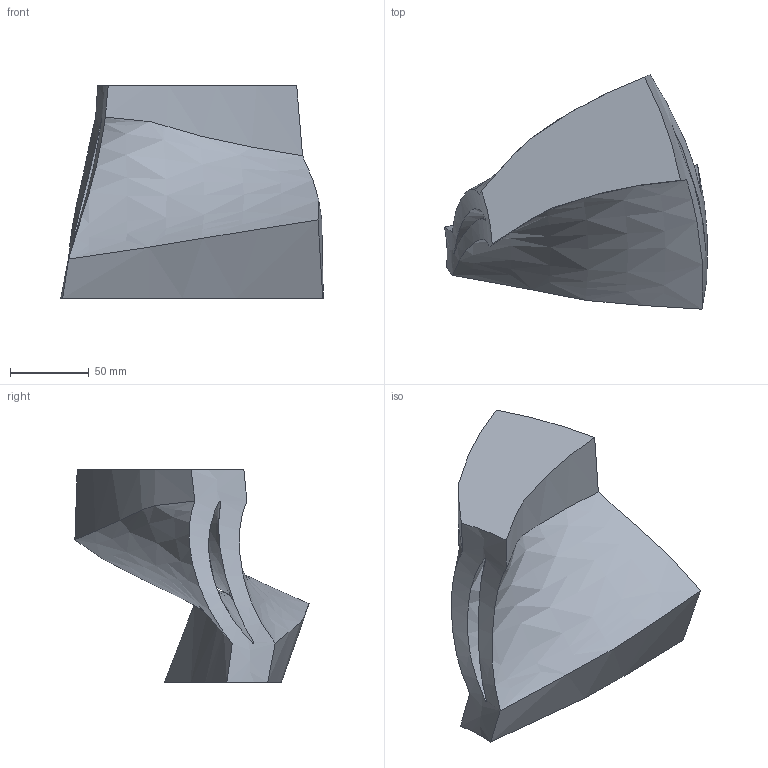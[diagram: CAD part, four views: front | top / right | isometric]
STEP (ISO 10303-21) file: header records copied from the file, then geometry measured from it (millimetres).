
FILE_DESCRIPTION (( 'STEP AP203' ), '1' );
FILE_NAME ('rotor67_noTipGap.STEP', '2015-08-11T10:55:31', ( '' ), ( '' ), 'SwSTEP 2.0', 'SolidWorks 2015', '' );
FILE_SCHEMA (( 'CONFIG_CONTROL_DESIGN' ));
Length unit declared in the file: millimetre
Products named in the file (1): rotor67_noTipGap
Bounding box: 166.86 x 148.71 x 134.84 mm (x, y, z)
Volume: 947077.5 mm3; surface area: 103123.7 mm2
Topology: 1 solids, 1 shells, 12 faces, 51 edges, 41 vertices
Faces by surface type: bspline 10, plane 2
Entity records: 5585 total; most frequent: CARTESIAN_POINT 5188, ORIENTED_EDGE 102, EDGE_CURVE 51, B_SPLINE_CURVE_WITH_KNOTS 47, VERTEX_POINT 41, DIRECTION 14, EDGE_LOOP 14, FACE_OUTER_BOUND 12
